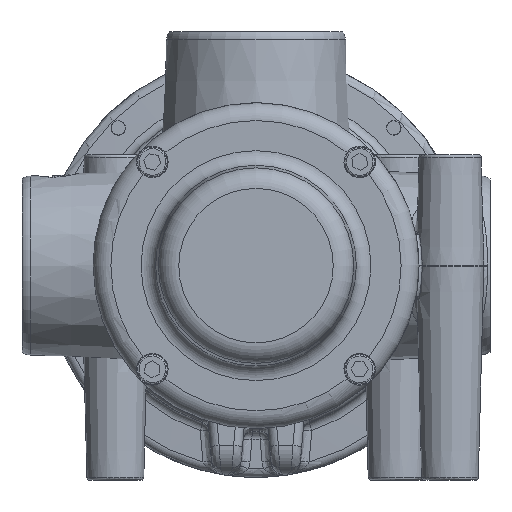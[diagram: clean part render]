
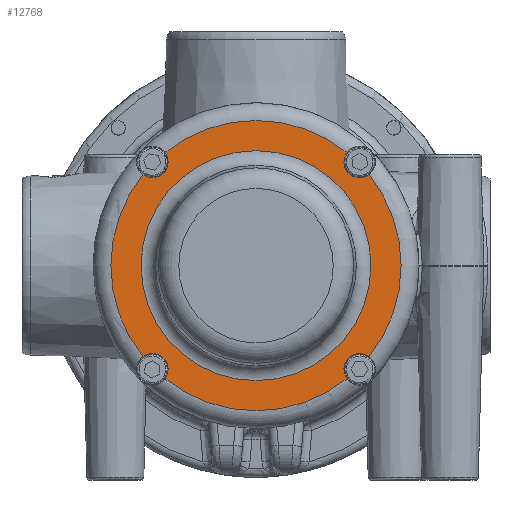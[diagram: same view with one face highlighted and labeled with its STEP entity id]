
A CAD part, front view. The second image highlights one B-rep face of the part: STEP entity #12768.
In plain terms, the highlighted planar face has unit normal (0, -1, 0).
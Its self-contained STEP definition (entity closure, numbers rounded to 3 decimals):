
#2230=PLANE('',#13763);
#2544=FACE_BOUND('',#3738,.T.);
#2842=FACE_OUTER_BOUND('',#3737,.T.);
#3737=EDGE_LOOP('',(#8592,#8593,#8594,#8595,#8596,#8597,#8598,#8599));
#3738=EDGE_LOOP('',(#8600));
#4746=CIRCLE('',#13743,5.308);
#4747=CIRCLE('',#13745,5.308);
#4748=CIRCLE('',#13747,5.308);
#4749=CIRCLE('',#13749,5.308);
#4751=CIRCLE('',#13752,49.);
#4752=CIRCLE('',#13753,49.);
#4753=CIRCLE('',#13754,49.);
#4754=CIRCLE('',#13755,49.);
#4758=CIRCLE('',#13762,38.818);
#5427=VERTEX_POINT('',#18845);
#5428=VERTEX_POINT('',#18846);
#5429=VERTEX_POINT('',#18877);
#5430=VERTEX_POINT('',#18878);
#5431=VERTEX_POINT('',#18911);
#5432=VERTEX_POINT('',#18912);
#5433=VERTEX_POINT('',#18945);
#5434=VERTEX_POINT('',#18946);
#5439=VERTEX_POINT('',#18992);
#6647=EDGE_CURVE('',#5427,#5428,#4746,.T.);
#6649=EDGE_CURVE('',#5429,#5430,#4747,.T.);
#6651=EDGE_CURVE('',#5431,#5432,#4748,.T.);
#6653=EDGE_CURVE('',#5433,#5434,#4749,.T.);
#6656=EDGE_CURVE('',#5427,#5434,#4751,.T.);
#6657=EDGE_CURVE('',#5433,#5432,#4752,.T.);
#6658=EDGE_CURVE('',#5431,#5430,#4753,.T.);
#6659=EDGE_CURVE('',#5429,#5428,#4754,.T.);
#6663=EDGE_CURVE('',#5439,#5439,#4758,.T.);
#8592=ORIENTED_EDGE('',*,*,#6647,.T.);
#8593=ORIENTED_EDGE('',*,*,#6659,.F.);
#8594=ORIENTED_EDGE('',*,*,#6649,.T.);
#8595=ORIENTED_EDGE('',*,*,#6658,.F.);
#8596=ORIENTED_EDGE('',*,*,#6651,.T.);
#8597=ORIENTED_EDGE('',*,*,#6657,.F.);
#8598=ORIENTED_EDGE('',*,*,#6653,.T.);
#8599=ORIENTED_EDGE('',*,*,#6656,.F.);
#8600=ORIENTED_EDGE('',*,*,#6663,.T.);
#12768=ADVANCED_FACE('',(#2842,#2544),#2230,.T.);
#13743=AXIS2_PLACEMENT_3D('',#18847,#15398,#15399);
#13745=AXIS2_PLACEMENT_3D('',#18879,#15402,#15403);
#13747=AXIS2_PLACEMENT_3D('',#18913,#15406,#15407);
#13749=AXIS2_PLACEMENT_3D('',#18947,#15410,#15411);
#13752=AXIS2_PLACEMENT_3D('',#18979,#15416,#15417);
#13753=AXIS2_PLACEMENT_3D('',#18980,#15418,#15419);
#13754=AXIS2_PLACEMENT_3D('',#18981,#15420,#15421);
#13755=AXIS2_PLACEMENT_3D('',#18982,#15422,#15423);
#13762=AXIS2_PLACEMENT_3D('',#18993,#15436,#15437);
#13763=AXIS2_PLACEMENT_3D('',#18994,#15438,#15439);
#15398=DIRECTION('center_axis',(0.,1.,0.));
#15399=DIRECTION('ref_axis',(-1.,0.,0.));
#15402=DIRECTION('center_axis',(0.,1.,0.));
#15403=DIRECTION('ref_axis',(-1.,0.,0.));
#15406=DIRECTION('center_axis',(0.,1.,0.));
#15407=DIRECTION('ref_axis',(-1.,0.,0.));
#15410=DIRECTION('center_axis',(0.,1.,0.));
#15411=DIRECTION('ref_axis',(-1.,0.,0.));
#15416=DIRECTION('center_axis',(0.,1.,0.));
#15417=DIRECTION('ref_axis',(-1.,0.,0.));
#15418=DIRECTION('center_axis',(0.,1.,0.));
#15419=DIRECTION('ref_axis',(-1.,0.,0.));
#15420=DIRECTION('center_axis',(0.,1.,0.));
#15421=DIRECTION('ref_axis',(-1.,0.,0.));
#15422=DIRECTION('center_axis',(0.,1.,0.));
#15423=DIRECTION('ref_axis',(-1.,0.,0.));
#15436=DIRECTION('center_axis',(0.,1.,0.));
#15437=DIRECTION('ref_axis',(-1.,0.,0.));
#15438=DIRECTION('center_axis',(0.,-1.,0.));
#15439=DIRECTION('ref_axis',(0.,0.,
-1.));
#18845=CARTESIAN_POINT('',(38.161,-7.,30.736));
#18846=CARTESIAN_POINT('',(30.736,-7.,38.161));
#18847=CARTESIAN_POINT('Origin',(35.,-7.,35.));
#18877=CARTESIAN_POINT('',(-30.736,-7.,38.161));
#18878=CARTESIAN_POINT('',(-38.161,-7.,30.736));
#18879=CARTESIAN_POINT('Origin',(-35.,-7.,35.));
#18911=CARTESIAN_POINT('',(-38.161,-7.,-30.736));
#18912=CARTESIAN_POINT('',(-30.736,-7.,-38.161));
#18913=CARTESIAN_POINT('Origin',(-35.,-7.,-35.));
#18945=CARTESIAN_POINT('',(30.736,-7.,-38.161));
#18946=CARTESIAN_POINT('',(38.161,-7.,-30.736));
#18947=CARTESIAN_POINT('Origin',(35.,-7.,-35.));
#18979=CARTESIAN_POINT('Origin',(0.,-7.,
0.));
#18980=CARTESIAN_POINT('Origin',(0.,-7.,
0.));
#18981=CARTESIAN_POINT('Origin',(0.,-7.,
0.));
#18982=CARTESIAN_POINT('Origin',(0.,-7.,
0.));
#18992=CARTESIAN_POINT('',(-38.818,-7.,0.));
#18993=CARTESIAN_POINT('Origin',(0.,-7.,
0.));
#18994=CARTESIAN_POINT('Origin',(-43.909,-7.,0.));
